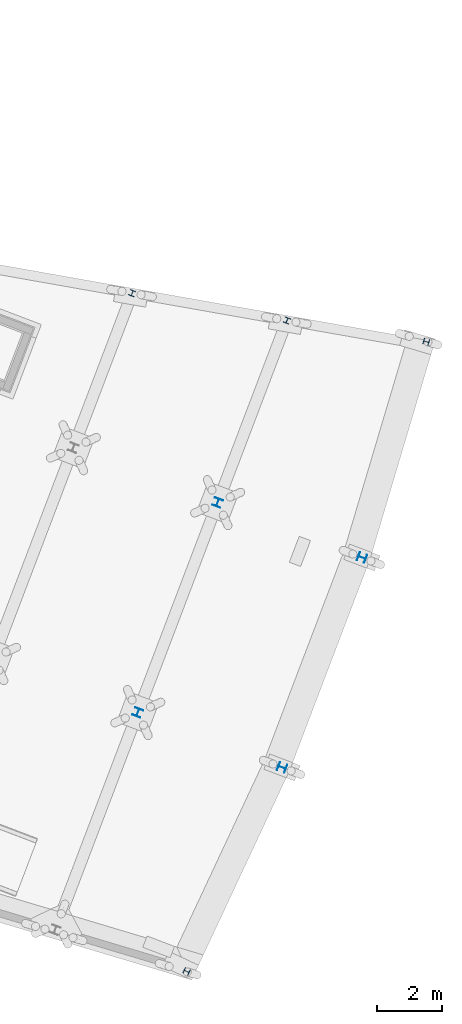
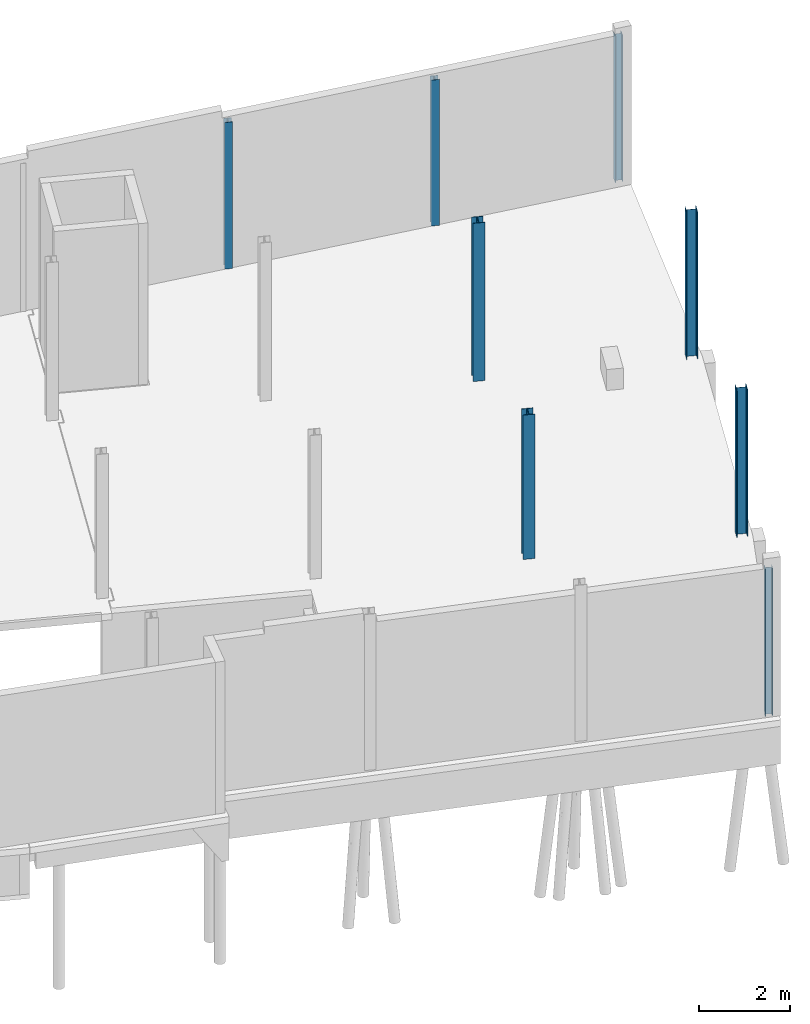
# One storey, part 37 of 46: 8 columns.
"""IFC2X3 building model written with IfcOpenShell, lengths in millimetres."""

from ifc_helpers import new_model, entity, si_unit, converted_unit, derived_unit, direction, frame, frame_2d, origin, origin_2d_with_axis, place, context, subcontext, project, spatial, i_section, extrude, source, transform, mapped, material, type_object, type_shapes, element, save


model = new_model("IFC2X3")

# Units and contexts
model_context = context("Model", 3, precision=0.01, world=origin(), true_north=direction((6.123233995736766e-17, 1.0)))
body_context = subcontext(model_context, "Body", "Model", "MODEL_VIEW")
ifc_project = project(units=[si_unit("LENGTHUNIT", "METRE", prefix="MILLI"), converted_unit("PLANEANGLEUNIT", "DEGREE", entity("IfcPlaneAngleMeasure", 0.017453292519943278), si_unit("PLANEANGLEUNIT", "RADIAN"), dimensions=[0, 0, 0, 0, 0, 0, 0]), si_unit("AREAUNIT", "SQUARE_METRE"), derived_unit("THERMALTRANSMITTANCEUNIT", [(si_unit("MASSUNIT", "GRAM", prefix="KILO"), 1), (si_unit("THERMODYNAMICTEMPERATUREUNIT", "KELVIN"), -1), (si_unit("TIMEUNIT", "SECOND"), -3)])], contexts=[model_context])

# Site, building, storey
site_placement = place(None, frame((-72937.88054949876, 11621.45624098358, 0.0), z_axis=(0.0, 0.0, 1.0), x_axis=(0.9346418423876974, -0.35559053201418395, 0.0)))
site = spatial("IfcSite", under=ifc_project, at=site_placement, Name="Default", CompositionType="ELEMENT")
building_placement = place(site_placement, origin())
building = spatial("IfcBuilding", under=site, at=building_placement, CompositionType="ELEMENT")
storey_placement = place(building_placement, origin())
storey = spatial("IfcBuildingStorey", under=building, at=storey_placement, Name="00 begane grond", CompositionType="ELEMENT", Elevation=0.0)

# Columns
ifc_material = material(Name="metaal_staal_generiek")
column_type_1 = type_object("IfcColumnType", Name="DIE26", PredefinedType="COLUMN", material=ifc_material)
shared_shape_1 = source(origin(), body_context, "Body", "SweptSolid", [
    extrude(i_section(OverallWidth=260.00000000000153, OverallDepth=249.9999999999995, WebThickness=7.499999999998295, FlangeThickness=12.50000000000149, FilletRadius=24.0, at=frame_2d((-1.2988721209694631e-11, -2.1671553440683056e-12), x_axis=(1.0, 0.0))), frame((62300.0, 21880.0, -60.0), z_axis=(0.0, 0.0, 1.0), x_axis=(-1.0, 0.0, 0.0)), (0.0, 0.0, 1.0), 3859.999999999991),
])
type_shapes(column_type_1, [shared_shape_1])
column_1_placement = place(storey_placement, origin())
element("IfcColumn", 1, at=column_1_placement, inside=storey, type_object=column_type_1, material=ifc_material, Name="28.11_SCO_KolomHEA:DIE26", ObjectType="28.11_SCO_KolomHEA:DIE26", context=body_context, shape_type="MappedRepresentation", body=[
    mapped(shared_shape_1, transform((0.0, 0.0, 0.0), scale=1.0)),
])
column_type_2 = type_object("IfcColumnType", Name="DIE26", PredefinedType="COLUMN", material=ifc_material)
shared_shape_2 = source(origin(), body_context, "Body", "SweptSolid", [
    extrude(i_section(OverallWidth=260.0, OverallDepth=249.99999999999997, WebThickness=7.499999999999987, FlangeThickness=12.5, FilletRadius=24.0, at=origin_2d_with_axis()), frame((0.0, 0.0, -60.0), z_axis=(0.0, 0.0, 1.0), x_axis=(-1.0, 0.0, 0.0)), (0.0, 0.0, 1.0), 4230.0),
])
type_shapes(column_type_2, [shared_shape_2])
column_2_placement = place(storey_placement, frame((62300.0, 28760.0, 0.0)))
element("IfcColumn", 2, at=column_2_placement, inside=storey, type_object=column_type_2, material=ifc_material, Name="28.11_SCO_KolomHEA:DIE26", ObjectType="28.11_SCO_KolomHEA:DIE26", context=body_context, shape_type="MappedRepresentation", body=[
    mapped(shared_shape_2, transform((0.0, 0.0, 0.0), scale=1.0)),
])
column_type_3 = type_object("IfcColumnType", Name="DIE18", PredefinedType="COLUMN", material=ifc_material)
shared_shape_3 = source(origin(), body_context, "Body", "SweptSolid", [
    extrude(i_section(OverallWidth=180.0000000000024, OverallDepth=171.0000000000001, WebThickness=5.999999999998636, FlangeThickness=9.500000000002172, FilletRadius=15.0, at=frame_2d((-4.334310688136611e-12, 2.1671553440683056e-12), x_axis=(1.0, 0.0))), frame((57570.0, 33826.46121080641, -60.0), z_axis=(0.0, 0.0, 1.0), x_axis=(-1.0, 0.0, 0.0)), (0.0, 0.0, 1.0), 3919.999999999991),
])
type_shapes(column_type_3, [shared_shape_3])
column_3_placement = place(storey_placement, origin())
element("IfcColumn", 3, at=column_3_placement, inside=storey, type_object=column_type_3, material=ifc_material, Name="28.11_SCO_KolomHEA:DIE18", ObjectType="28.11_SCO_KolomHEA:DIE18", context=body_context, shape_type="MappedRepresentation", body=[
    mapped(shared_shape_3, transform((0.0, 0.0, 0.0), scale=1.0)),
])
column_type_4 = type_object("IfcColumnType", Name="DIE18", PredefinedType="COLUMN", material=ifc_material)
shared_shape_4 = source(origin(), body_context, "Body", "SweptSolid", [
    extrude(i_section(OverallWidth=180.0000000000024, OverallDepth=171.0000000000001, WebThickness=5.999999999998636, FlangeThickness=9.500000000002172, FilletRadius=15.0, at=frame_2d((4.334310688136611e-12, -2.1671553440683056e-12), x_axis=(1.0, 0.0))), frame((62300.0, 34730.0, -60.0), z_axis=(0.0, 0.0, 1.0), x_axis=(-1.0, 0.0, 0.0)), (0.0, 0.0, 1.0), 3899.999999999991),
])
type_shapes(column_type_4, [shared_shape_4])
column_4_placement = place(storey_placement, origin())
element("IfcColumn", 4, at=column_4_placement, inside=storey, type_object=column_type_4, material=ifc_material, Name="28.11_SCO_KolomHEA:DIE18", ObjectType="28.11_SCO_KolomHEA:DIE18", context=body_context, shape_type="MappedRepresentation", body=[
    mapped(shared_shape_4, transform((0.0, 0.0, 0.0), scale=1.0)),
])
column_type_5 = type_object("IfcColumnType", Name="DIE26", PredefinedType="COLUMN", material=ifc_material)
shared_shape_5 = source(origin(), body_context, "Body", "SweptSolid", [
    extrude(i_section(OverallWidth=260.00000000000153, OverallDepth=250.0000000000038, WebThickness=7.499999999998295, FlangeThickness=12.500000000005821, FilletRadius=24.0, at=frame_2d((4.320099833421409e-12, -1.2988721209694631e-11), x_axis=(1.0, 0.0))), frame((67030.00015558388, 21880.0, 0.0), z_axis=(0.0, 0.0, 1.0), x_axis=(0.0, -1.0, 0.0)), (0.0, 0.0, 1.0), 3919.9999999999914),
])
type_shapes(column_type_5, [shared_shape_5])
column_5_placement = place(storey_placement, origin())
element("IfcColumn", 5, at=column_5_placement, inside=storey, type_object=column_type_5, material=ifc_material, Name="28.11_SCO_KolomHEA:DIE26", ObjectType="28.11_SCO_KolomHEA:DIE26", context=body_context, shape_type="MappedRepresentation", body=[
    mapped(shared_shape_5, transform((0.0, 0.0, 0.0), scale=1.0)),
])
column_type_6 = type_object("IfcColumnType", Name="DIE26", PredefinedType="COLUMN", material=ifc_material)
shared_shape_6 = source(origin(), body_context, "Body", "SweptSolid", [
    extrude(i_section(OverallWidth=260.00000000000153, OverallDepth=250.0000000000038, WebThickness=7.499999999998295, FlangeThickness=12.500000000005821, FilletRadius=24.0, at=frame_2d((0.0, -4.334310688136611e-12), x_axis=(1.0, 0.0))), frame((67030.00015558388, 28760.0, 0.0), z_axis=(0.0, 0.0, 1.0), x_axis=(0.0, -1.0, 0.0)), (0.0, 0.0, 1.0), 3919.9999999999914),
])
type_shapes(column_type_6, [shared_shape_6])
column_6_placement = place(storey_placement, origin())
element("IfcColumn", 6, at=column_6_placement, inside=storey, type_object=column_type_6, material=ifc_material, Name="28.11_SCO_KolomHEA:DIE26", ObjectType="28.11_SCO_KolomHEA:DIE26", context=body_context, shape_type="MappedRepresentation", body=[
    mapped(shared_shape_6, transform((0.0, 0.0, 0.0), scale=1.0)),
])
column_type_7 = type_object("IfcColumnType", Name="DIE18", PredefinedType="COLUMN", material=ifc_material)
shared_shape_7 = source(origin(), body_context, "Body", "SweptSolid", [
    extrude(i_section(OverallWidth=180.00000000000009, OverallDepth=170.99999999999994, WebThickness=5.9999999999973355, FlangeThickness=9.499999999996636, FilletRadius=15.0, at=frame_2d((1.0871303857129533e-12, 8.526512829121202e-14), x_axis=(1.0, 0.0))), frame((66520.00013965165, 15000.000129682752, 0.0), z_axis=(0.0, 0.0, 1.0), x_axis=(-0.07392507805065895, -0.997263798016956, 0.0)), (0.0, 0.0, 1.0), 3919.9999999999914),
])
type_shapes(column_type_7, [shared_shape_7])
column_7_placement = place(storey_placement, origin())
element("IfcColumn", 7, at=column_7_placement, inside=storey, type_object=column_type_7, material=ifc_material, Name="28.11_SCO_KolomHEA:DIE18", ObjectType="28.11_SCO_KolomHEA:DIE18", context=body_context, shape_type="MappedRepresentation", body=[
    mapped(shared_shape_7, transform((0.0, 0.0, 0.0), scale=1.0)),
])
column_type_8 = type_object("IfcColumnType", Name="DIE18", PredefinedType="COLUMN", material=ifc_material)
shared_shape_8 = source(origin(), body_context, "Body", "SweptSolid", [
    extrude(i_section(OverallWidth=179.9999999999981, OverallDepth=171.00000000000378, WebThickness=6.00000000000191, FlangeThickness=9.499999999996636, FilletRadius=15.0, at=frame_2d((6.394884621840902e-13, 8.640199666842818e-12), x_axis=(1.0, 0.0))), frame((66520.00016526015, 35639.99999793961, 0.0), z_axis=(0.0, 0.0, 1.0), x_axis=(0.07392507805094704, -0.9972637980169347, 0.0)), (0.0, 0.0, 1.0), 3919.9999999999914),
])
type_shapes(column_type_8, [shared_shape_8])
column_8_placement = place(storey_placement, origin())
element("IfcColumn", 8, at=column_8_placement, inside=storey, type_object=column_type_8, material=ifc_material, Name="28.11_SCO_KolomHEA:DIE18", ObjectType="28.11_SCO_KolomHEA:DIE18", context=body_context, shape_type="MappedRepresentation", body=[
    mapped(shared_shape_8, transform((0.0, 0.0, 0.0), scale=1.0)),
])

save(model, "model.ifc")
